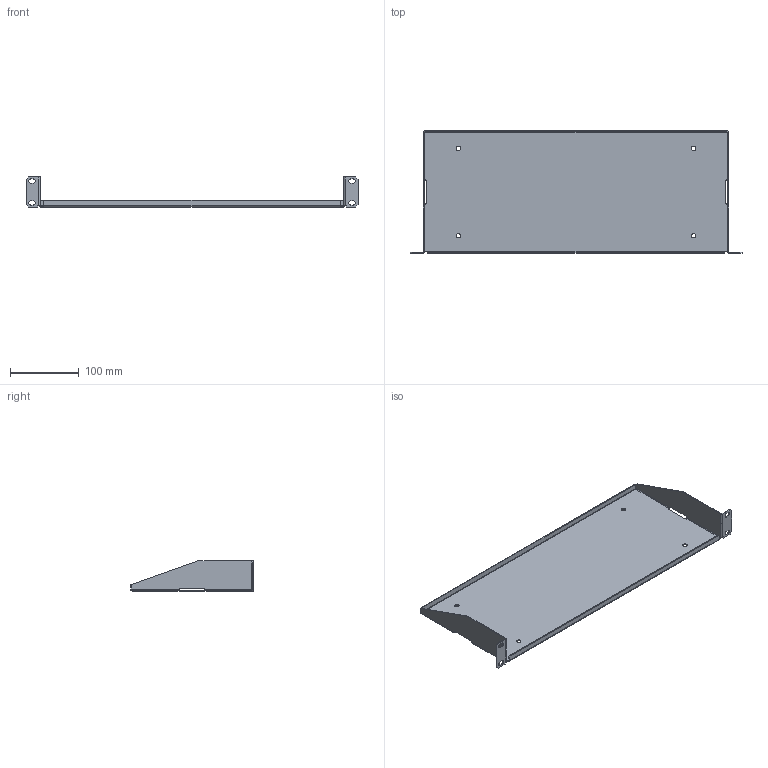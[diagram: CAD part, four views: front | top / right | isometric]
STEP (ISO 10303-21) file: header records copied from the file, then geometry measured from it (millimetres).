
FILE_DESCRIPTION( ( 'Unknown' ), '1' );
FILE_NAME( 'Q:/ACCESSORIES/SHELVES/RAS/WEB DRAWINGS/STEP/RASU190107U.stp', 'Unknown', ( 'Unknown' ), ( 'Unknown' ), 'PSStep 10.1', 'Unknown', ' ' );
FILE_SCHEMA( ( 'AUTOMOTIVE_DESIGN { 1 0 10303 214 1 1 1 1 }' ) );
Length unit declared in the file: millimetre
Products named in the file (1): 1
Bounding box: 482.75 x 177.8 x 43.64 mm (x, y, z)
Volume: 141329.5 mm3; surface area: 197875.6 mm2
Topology: 1 solids, 1 shells, 110 faces, 304 edges, 192 vertices
Faces by surface type: plane 62, cylinder 40, bspline 8
Full cylindrical faces by diameter (mm): 6.35 x4
Entity records: 4736 total; most frequent: CARTESIAN_POINT 1067, ORIENTED_EDGE 592, DIRECTION 546, EDGE_CURVE 296, LINE 196, VECTOR 196, VERTEX_POINT 188, AXIS2_PLACEMENT_3D 175
